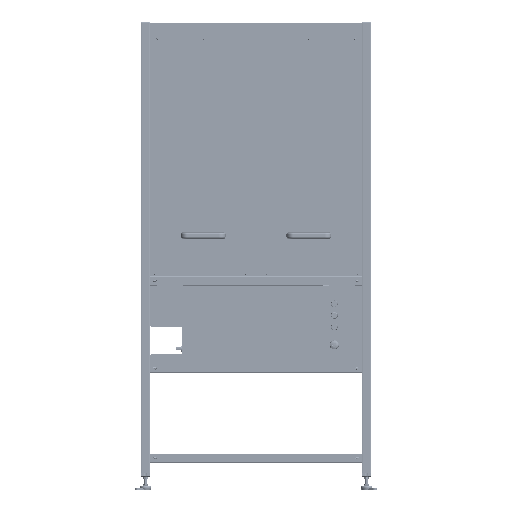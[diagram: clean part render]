
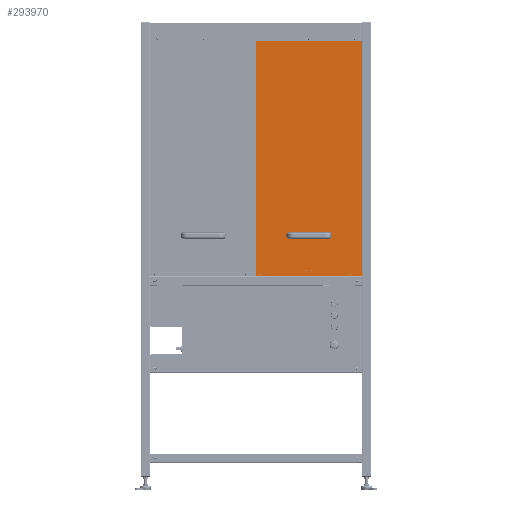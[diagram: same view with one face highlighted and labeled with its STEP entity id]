
A CAD part, top view. The second image highlights one B-rep face of the part: STEP entity #293970.
In plain terms, the highlighted planar face has unit normal (0, 0, 1) as drawn and (1, 0, 0) by its records, which use the part's own axes.
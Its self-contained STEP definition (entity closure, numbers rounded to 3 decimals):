
#10535=FACE_BOUND('',#45570,.T.);
#10536=FACE_BOUND('',#45571,.T.);
#10537=FACE_BOUND('',#45572,.T.);
#10538=FACE_BOUND('',#45573,.T.);
#10539=FACE_BOUND('',#45574,.T.);
#10540=FACE_BOUND('',#45575,.T.);
#10541=FACE_BOUND('',#45576,.T.);
#10542=FACE_BOUND('',#45577,.T.);
#10543=FACE_BOUND('',#45578,.T.);
#10544=FACE_BOUND('',#45579,.T.);
#10545=FACE_BOUND('',#45580,.T.);
#16140=CIRCLE('',#318242,2.05);
#16142=CIRCLE('',#318245,2.05);
#16144=CIRCLE('',#318248,2.05);
#16146=CIRCLE('',#318251,2.05);
#16148=CIRCLE('',#318254,2.05);
#16150=CIRCLE('',#318257,2.05);
#16151=CIRCLE('',#318259,4.);
#16153=CIRCLE('',#318262,4.);
#16155=CIRCLE('',#318265,2.1);
#16157=CIRCLE('',#318268,2.1);
#16159=CIRCLE('',#318271,2.1);
#29006=FACE_OUTER_BOUND('',#45569,.T.);
#45569=EDGE_LOOP('',(#218813,#218814,#218815,#218816));
#45570=EDGE_LOOP('',(#218817));
#45571=EDGE_LOOP('',(#218818));
#45572=EDGE_LOOP('',(#218819));
#45573=EDGE_LOOP('',(#218820));
#45574=EDGE_LOOP('',(#218821));
#45575=EDGE_LOOP('',(#218822));
#45576=EDGE_LOOP('',(#218823));
#45577=EDGE_LOOP('',(#218824));
#45578=EDGE_LOOP('',(#218825));
#45579=EDGE_LOOP('',(#218826));
#45580=EDGE_LOOP('',(#218827));
#66221=LINE('',#463119,#98132);
#66225=LINE('',#463127,#98136);
#66228=LINE('',#463133,#98139);
#66231=LINE('',#463138,#98142);
#98132=VECTOR('',#360802,10.);
#98136=VECTOR('',#360808,10.);
#98139=VECTOR('',#360813,10.);
#98142=VECTOR('',#360818,10.);
#130419=VERTEX_POINT('',#463053);
#130421=VERTEX_POINT('',#463059);
#130423=VERTEX_POINT('',#463065);
#130425=VERTEX_POINT('',#463071);
#130427=VERTEX_POINT('',#463077);
#130429=VERTEX_POINT('',#463083);
#130430=VERTEX_POINT('',#463087);
#130432=VERTEX_POINT('',#463093);
#130434=VERTEX_POINT('',#463099);
#130436=VERTEX_POINT('',#463105);
#130438=VERTEX_POINT('',#463111);
#130440=VERTEX_POINT('',#463117);
#130441=VERTEX_POINT('',#463118);
#130444=VERTEX_POINT('',#463126);
#130446=VERTEX_POINT('',#463132);
#162971=EDGE_CURVE('',#130419,#130419,#16140,.T.);
#162974=EDGE_CURVE('',#130421,#130421,#16142,.T.);
#162977=EDGE_CURVE('',#130423,#130423,#16144,.T.);
#162980=EDGE_CURVE('',#130425,#130425,#16146,.T.);
#162983=EDGE_CURVE('',#130427,#130427,#16148,.T.);
#162986=EDGE_CURVE('',#130429,#130429,#16150,.T.);
#162987=EDGE_CURVE('',#130430,#130430,#16151,.T.);
#162990=EDGE_CURVE('',#130432,#130432,#16153,.T.);
#162993=EDGE_CURVE('',#130434,#130434,#16155,.T.);
#162996=EDGE_CURVE('',#130436,#130436,#16157,.T.);
#162999=EDGE_CURVE('',#130438,#130438,#16159,.T.);
#163002=EDGE_CURVE('',#130440,#130441,#66221,.T.);
#163006=EDGE_CURVE('',#130441,#130444,#66225,.T.);
#163009=EDGE_CURVE('',#130444,#130446,#66228,.T.);
#163012=EDGE_CURVE('',#130446,#130440,#66231,.T.);
#218813=ORIENTED_EDGE('',*,*,#163002,.F.);
#218814=ORIENTED_EDGE('',*,*,#163012,.F.);
#218815=ORIENTED_EDGE('',*,*,#163009,.F.);
#218816=ORIENTED_EDGE('',*,*,#163006,.F.);
#218817=ORIENTED_EDGE('',*,*,#162971,.T.);
#218818=ORIENTED_EDGE('',*,*,#162974,.T.);
#218819=ORIENTED_EDGE('',*,*,#162977,.T.);
#218820=ORIENTED_EDGE('',*,*,#162980,.T.);
#218821=ORIENTED_EDGE('',*,*,#162983,.T.);
#218822=ORIENTED_EDGE('',*,*,#162986,.T.);
#218823=ORIENTED_EDGE('',*,*,#162987,.T.);
#218824=ORIENTED_EDGE('',*,*,#162990,.T.);
#218825=ORIENTED_EDGE('',*,*,#162993,.T.);
#218826=ORIENTED_EDGE('',*,*,#162996,.T.);
#218827=ORIENTED_EDGE('',*,*,#162999,.T.);
#281005=PLANE('',#318277);
#293970=ADVANCED_FACE('',(#29006,#10535,#10536,#10537,#10538,#10539,#10540,
#10541,#10542,#10543,#10544,#10545),#281005,.T.);
#318242=AXIS2_PLACEMENT_3D('',#463055,#360728,#360729);
#318245=AXIS2_PLACEMENT_3D('',#463061,#360735,#360736);
#318248=AXIS2_PLACEMENT_3D('',#463067,#360742,#360743);
#318251=AXIS2_PLACEMENT_3D('',#463073,#360749,#360750);
#318254=AXIS2_PLACEMENT_3D('',#463079,#360756,#360757);
#318257=AXIS2_PLACEMENT_3D('',#463085,#360763,#360764);
#318259=AXIS2_PLACEMENT_3D('',#463088,#360767,#360768);
#318262=AXIS2_PLACEMENT_3D('',#463094,#360774,#360775);
#318265=AXIS2_PLACEMENT_3D('',#463100,#360781,#360782);
#318268=AXIS2_PLACEMENT_3D('',#463106,#360788,#360789);
#318271=AXIS2_PLACEMENT_3D('',#463112,#360795,#360796);
#318277=AXIS2_PLACEMENT_3D('',#463140,#360820,#360821);
#360728=DIRECTION('center_axis',(-1.,0.,0.));
#360729=DIRECTION('ref_axis',(0.,1.,0.));
#360735=DIRECTION('center_axis',(-1.,0.,0.));
#360736=DIRECTION('ref_axis',(0.,1.,0.));
#360742=DIRECTION('center_axis',(-1.,0.,0.));
#360743=DIRECTION('ref_axis',(0.,1.,0.));
#360749=DIRECTION('center_axis',(-1.,0.,0.));
#360750=DIRECTION('ref_axis',(0.,1.,0.));
#360756=DIRECTION('center_axis',(-1.,0.,0.));
#360757=DIRECTION('ref_axis',(0.,1.,0.));
#360763=DIRECTION('center_axis',(-1.,0.,0.));
#360764=DIRECTION('ref_axis',(0.,1.,0.));
#360767=DIRECTION('center_axis',(-1.,0.,0.));
#360768=DIRECTION('ref_axis',(0.,0.,-1.));
#360774=DIRECTION('center_axis',(-1.,0.,0.));
#360775=DIRECTION('ref_axis',(0.,0.,-1.));
#360781=DIRECTION('center_axis',(-1.,0.,0.));
#360782=DIRECTION('ref_axis',(0.,0.,-1.));
#360788=DIRECTION('center_axis',(-1.,0.,0.));
#360789=DIRECTION('ref_axis',(0.,0.,-1.));
#360795=DIRECTION('center_axis',(-1.,0.,0.));
#360796=DIRECTION('ref_axis',(0.,0.,-1.));
#360802=DIRECTION('',(0.,0.,-1.));
#360808=DIRECTION('',(0.,-1.,0.));
#360813=DIRECTION('',(0.,0.,1.));
#360818=DIRECTION('',(0.,1.,0.));
#360820=DIRECTION('center_axis',(1.,0.,0.));
#360821=DIRECTION('ref_axis',(0.,0.,-1.));
#463053=CARTESIAN_POINT('',(6.,-514.55,-213.));
#463055=CARTESIAN_POINT('Origin',(6.,-512.5,-213.));
#463059=CARTESIAN_POINT('',(6.,-514.55,213.));
#463061=CARTESIAN_POINT('Origin',(6.,-512.5,213.));
#463065=CARTESIAN_POINT('',(6.,-498.55,11.));
#463067=CARTESIAN_POINT('Origin',(6.,-496.5,11.));
#463071=CARTESIAN_POINT('',(6.,-498.55,-11.));
#463073=CARTESIAN_POINT('Origin',(6.,-496.5,-11.));
#463077=CARTESIAN_POINT('',(6.,-514.55,182.));
#463079=CARTESIAN_POINT('Origin',(6.,-512.5,182.));
#463083=CARTESIAN_POINT('',(6.,-514.55,-182.));
#463085=CARTESIAN_POINT('Origin',(6.,-512.5,-182.));
#463087=CARTESIAN_POINT('',(6.,-345.,93.5));
#463088=CARTESIAN_POINT('Origin',(6.,-345.,89.5));
#463093=CARTESIAN_POINT('',(6.,-345.,-85.5));
#463094=CARTESIAN_POINT('Origin',(6.,-345.,-89.5));
#463099=CARTESIAN_POINT('',(6.,510.,2.1));
#463100=CARTESIAN_POINT('Origin',(6.,510.,0.));
#463105=CARTESIAN_POINT('',(6.,510.,201.1));
#463106=CARTESIAN_POINT('Origin',(6.,510.,199.));
#463111=CARTESIAN_POINT('',(6.,510.,-196.9));
#463112=CARTESIAN_POINT('Origin',(6.,510.,-199.));
#463117=CARTESIAN_POINT('',(6.,520.,229.));
#463118=CARTESIAN_POINT('',(6.,520.,-229.));
#463119=CARTESIAN_POINT('',(6.,520.,229.));
#463126=CARTESIAN_POINT('',(6.,-520.,-229.));
#463127=CARTESIAN_POINT('',(6.,520.,-229.));
#463132=CARTESIAN_POINT('',(6.,-520.,229.));
#463133=CARTESIAN_POINT('',(6.,-520.,-229.));
#463138=CARTESIAN_POINT('',(6.,-520.,229.));
#463140=CARTESIAN_POINT('Origin',(6.,0.,0.));
